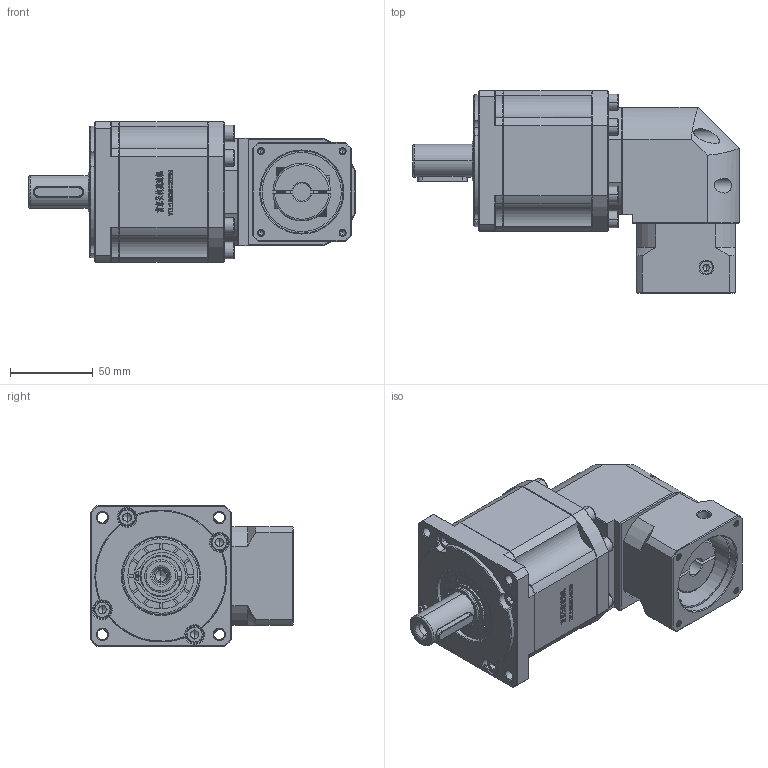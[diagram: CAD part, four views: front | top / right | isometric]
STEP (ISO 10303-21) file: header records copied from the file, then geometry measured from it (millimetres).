
FILE_DESCRIPTION (( 'STEP AP214' ), '1' );
FILE_NAME ('ZBR90-D20-L3-11-50-70-M4.step', '2022-05-07T15:17:00', ( '' ), ( 'Microsoft' ), 'SwSTEP 2.0', 'SolidWorks 2016', '' );
FILE_SCHEMA (( 'AUTOMOTIVE_DESIGN' ));
Length unit declared in the file: millimetre
Products named in the file (1): ZBR90-D20-L3-11-50-70-M4
Bounding box: 198 x 122.7 x 85 mm (x, y, z)
Volume: 921529 mm3; surface area: 105093.2 mm2
Topology: 5 solids, 5 shells, 3032 faces, 8140 edges, 5252 vertices
Faces by surface type: plane 1598, bspline 608, cylinder 437, cone 369, torus 20
Entity records: 161057 total; most frequent: CARTESIAN_POINT 56366, ORIENTED_EDGE 16188, DIRECTION 12496, EDGE_CURVE 8094, VECTOR 5330, LINE 5330, VERTEX_POINT 5252, AXIS2_PLACEMENT_3D 3583
